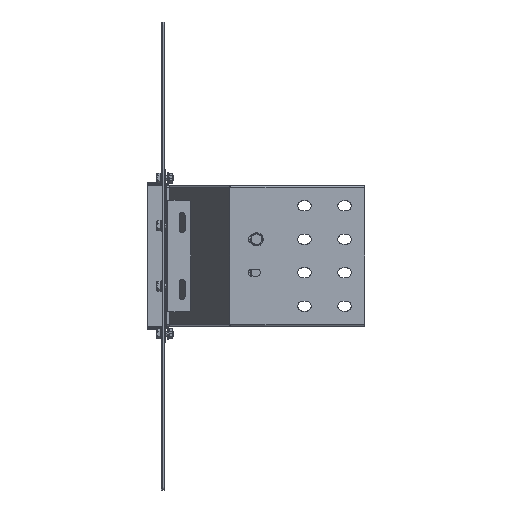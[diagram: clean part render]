
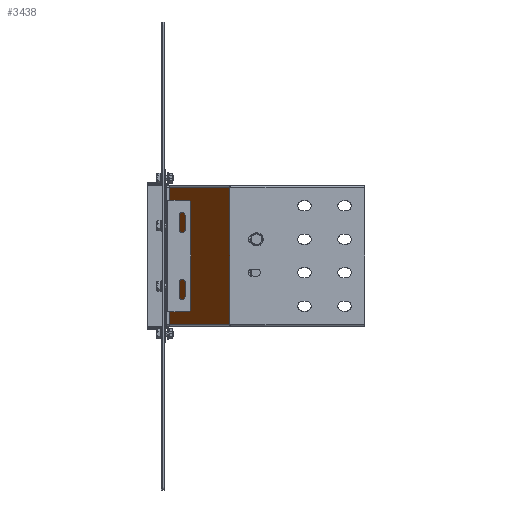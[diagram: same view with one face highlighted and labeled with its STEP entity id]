
A CAD part, front view. The second image highlights one B-rep face of the part: STEP entity #3438.
In plain terms, the highlighted planar face has unit normal (-0.916, -0.401, 0).
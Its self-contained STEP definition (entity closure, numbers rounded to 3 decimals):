
#3430=AXIS2_PLACEMENT_3D('Plane Axis2P3D',#3427,#3428,#3429) ;
#1842=CARTESIAN_POINT('Vertex',(98.266,-217.65,-102.35)) ;
#1856=CARTESIAN_POINT('Vertex',(98.266,-217.65,102.35)) ;
#1859=CARTESIAN_POINT('Line Origine',(98.266,-217.65,0.)) ;
#2644=CARTESIAN_POINT('Vertex',(8.266,-11.74,102.35)) ;
#2647=CARTESIAN_POINT('Line Origine',(52.572,-113.106,102.35)) ;
#2754=CARTESIAN_POINT('Vertex',(8.266,-11.74,-102.35)) ;
#2789=CARTESIAN_POINT('Line Origine',(52.572,-113.106,-102.35)) ;
#2831=CARTESIAN_POINT('Line Origine',(8.266,-11.74,0.)) ;
#3427=CARTESIAN_POINT('Axis2P3D Location',(98.961,-219.239,-102.35)) ;
#1860=DIRECTION('Vector Direction',(0.,0.,1.)) ;
#2648=DIRECTION('Vector Direction',(0.4,-0.916,0.)) ;
#2790=DIRECTION('Vector Direction',(0.4,-0.916,0.)) ;
#2832=DIRECTION('Vector Direction',(0.,0.,1.)) ;
#3428=DIRECTION('Axis2P3D Direction',(-0.916,-0.4,0.)) ;
#3429=DIRECTION('Axis2P3D XDirection',(0.,0.,1.)) ;
#1861=VECTOR('Line Direction',#1860,1.) ;
#2649=VECTOR('Line Direction',#2648,1.) ;
#2791=VECTOR('Line Direction',#2790,1.) ;
#2833=VECTOR('Line Direction',#2832,1.) ;
#3433=ORIENTED_EDGE('',*,*,#2651,.T.) ;
#3434=ORIENTED_EDGE('',*,*,#2835,.F.) ;
#3435=ORIENTED_EDGE('',*,*,#2793,.F.) ;
#3436=ORIENTED_EDGE('',*,*,#1863,.T.) ;
#3438=ADVANCED_FACE('N',(#3437),#3431,.T.) ;
#1863=EDGE_CURVE('',#1843,#1857,#1862,.T.) ;
#2651=EDGE_CURVE('',#1857,#2645,#2650,.F.) ;
#2793=EDGE_CURVE('',#1843,#2755,#2792,.F.) ;
#2835=EDGE_CURVE('',#2755,#2645,#2834,.T.) ;
#3432=EDGE_LOOP('',(#3433,#3434,#3435,#3436)) ;
#3437=FACE_OUTER_BOUND('',#3432,.T.) ;
#1862=LINE('Line',#1859,#1861) ;
#2650=LINE('Line',#2647,#2649) ;
#2792=LINE('Line',#2789,#2791) ;
#2834=LINE('Line',#2831,#2833) ;
#3431=PLANE('',#3430) ;
#1843=VERTEX_POINT('',#1842) ;
#1857=VERTEX_POINT('',#1856) ;
#2645=VERTEX_POINT('',#2644) ;
#2755=VERTEX_POINT('',#2754) ;
